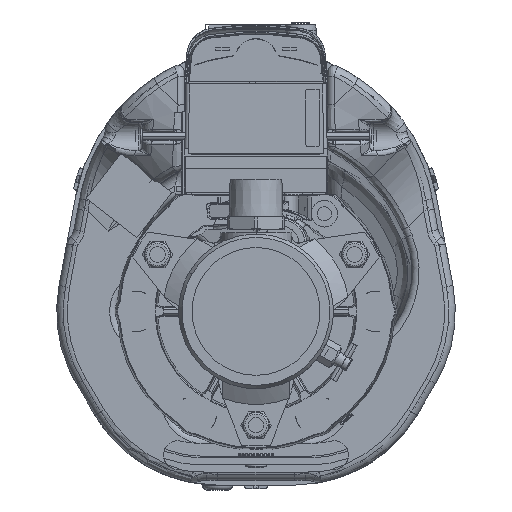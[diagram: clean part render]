
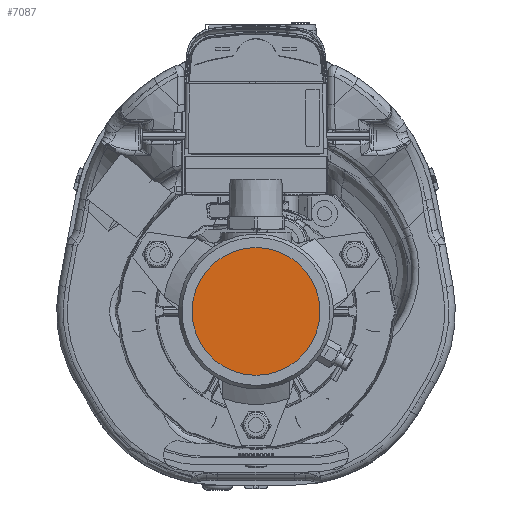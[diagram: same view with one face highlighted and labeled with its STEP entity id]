
A CAD part, front view. The second image highlights one B-rep face of the part: STEP entity #7087.
In plain terms, the highlighted planar face has unit normal (0, -1, 0).
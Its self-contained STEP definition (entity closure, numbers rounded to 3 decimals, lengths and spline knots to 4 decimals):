
#6612=CARTESIAN_POINT('',(0.,-18.223,0.));
#6613=DIRECTION('',(0.,1.,0.));
#6614=DIRECTION('',(0.866,0.,-0.5));
#6615=AXIS2_PLACEMENT_3D('',#6612,#6613,#6614);
#6617=CARTESIAN_POINT('',(0.,-18.223,0.));
#6618=DIRECTION('',(0.,1.,0.));
#6619=DIRECTION('',(-0.866,0.,0.5));
#6620=AXIS2_PLACEMENT_3D('',#6617,#6618,#6619);
#7064=CARTESIAN_POINT('',(1.9434,-18.223,
-1.122));
#7065=CARTESIAN_POINT('',(-1.9434,-18.223,
1.122));
#7066=VERTEX_POINT('',#7064);
#7067=VERTEX_POINT('',#7065);
#7076=CARTESIAN_POINT('',(0.,-18.223,0.));
#7077=DIRECTION('',(0.,-1.,0.));
#7078=DIRECTION('',(-0.866,0.,0.5));
#7079=AXIS2_PLACEMENT_3D('',#7076,#7077,#7078);
#7080=PLANE('',#7079);
#7082=ORIENTED_EDGE('',*,*,#7081,.T.);
#7084=ORIENTED_EDGE('',*,*,#7083,.T.);
#7085=EDGE_LOOP('',(#7082,#7084));
#7086=FACE_OUTER_BOUND('',#7085,.F.);
#7087=ADVANCED_FACE('',(#7086),#7080,.T.);
#6616=CIRCLE('',#6615,2.2441);
#6621=CIRCLE('',#6620,2.2441);
#7081=EDGE_CURVE('',#7066,#7067,#6616,.T.);
#7083=EDGE_CURVE('',#7067,#7066,#6621,.T.);
